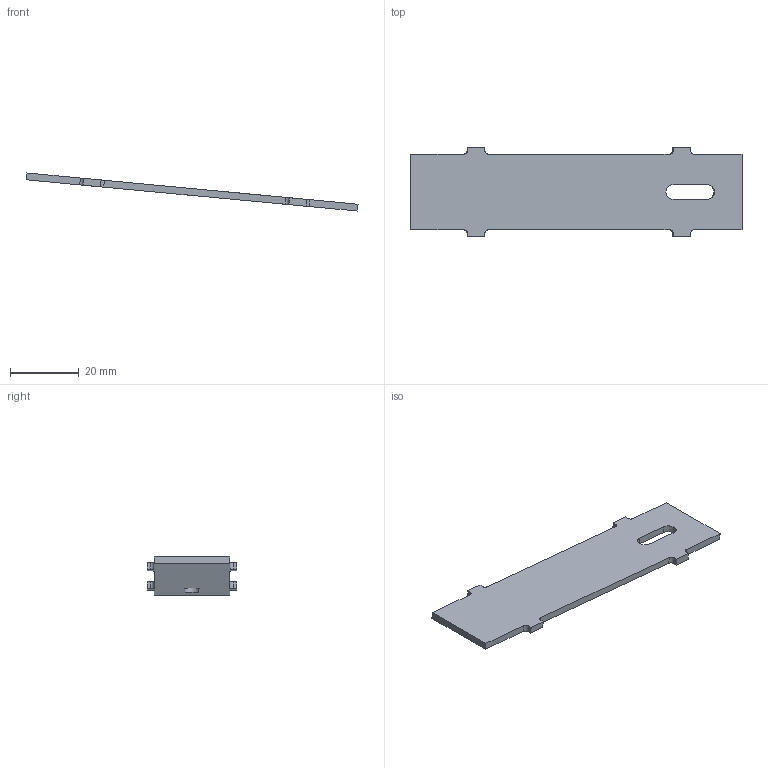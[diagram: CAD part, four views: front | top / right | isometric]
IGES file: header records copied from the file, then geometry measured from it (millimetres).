
Start section: START RECORD GO HERE.
Global section: file name: FR_10001_10 (Frame Brake).igs; native system: IBM CATIA IGES - CATIA Version 5 Release 19 ; preprocessor: CATIA Version 5 Release 19 ; author: jacqu; organization: ASUS-TUF-JACQUE; date: 20200226.092004; units: millimetre
Bounding box: 96.43 x 26 x 11.07 mm (x, y, z)
Surface area: 4791.5 mm2 (no closed solid volume)
Topology: 0 solids, 0 shells, 34 faces, 192 edges, 192 vertices
Faces by surface type: plane 24, revolution 10
